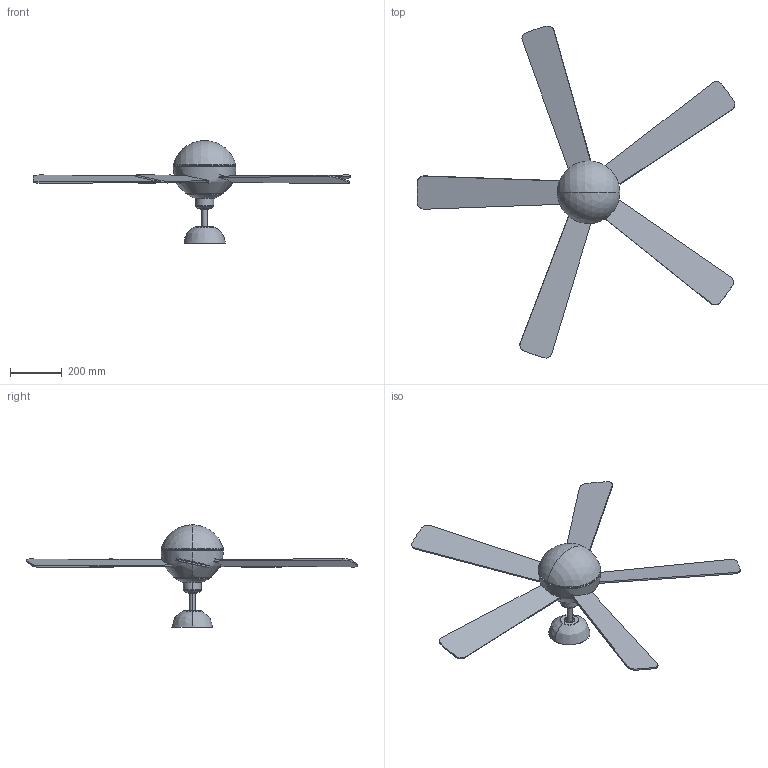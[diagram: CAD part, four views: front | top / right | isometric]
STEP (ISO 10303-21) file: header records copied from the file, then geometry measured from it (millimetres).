
FILE_DESCRIPTION(/* description */ (''),/* implementation_level */ '2;1');
FILE_NAME(/* name */ 'C:\Users\Franco Sartori E\Documents\FARO\DUPLICADO\Modelos\01_Digitalizados\PRIORIZACION 2D\3_IZARO\03_Publicación\33514, 33514WP IZARO_T - Vista 3D - {3D}.stp',/* time_stamp */ '2021-01-25T10:08:41+01:00',/* author */ ('Franco Sartori E'),/* organization */ (''),/* preprocessor_version */ 'ST-DEVELOPER v18.1',/* originating_system */ 'AutoCAD Mechanical',/* authorisation */ '');
FILE_SCHEMA (('AUTOMOTIVE_DESIGN { 1 0 10303 214 3 1 1 }'));
Length unit declared in the file: millimetre
Products named in the file (2): Product; 33514_ 33514WP_ - Lamp-468854-_3D_
Assembly tree (1 placements, depth 2):
  Product
    33514_ 33514WP_ - Lamp-468854-_3D_
Bounding box: 1221.38 x 1277.22 x 394.96 mm (x, y, z)
Volume: 8369895.9 mm3; surface area: 1138541.5 mm2
Topology: 9 solids, 9 shells, 183 faces, 439 edges, 276 vertices
Faces by surface type: plane 84, cylinder 63, torus 20, bspline 12, sphere 2, cone 2
Entity records: 7998 total; most frequent: CARTESIAN_POINT 3858, ORIENTED_EDGE 878, DIRECTION 799, EDGE_CURVE 439, AXIS2_PLACEMENT_3D 306, VERTEX_POINT 276, EDGE_LOOP 199, LINE 187
